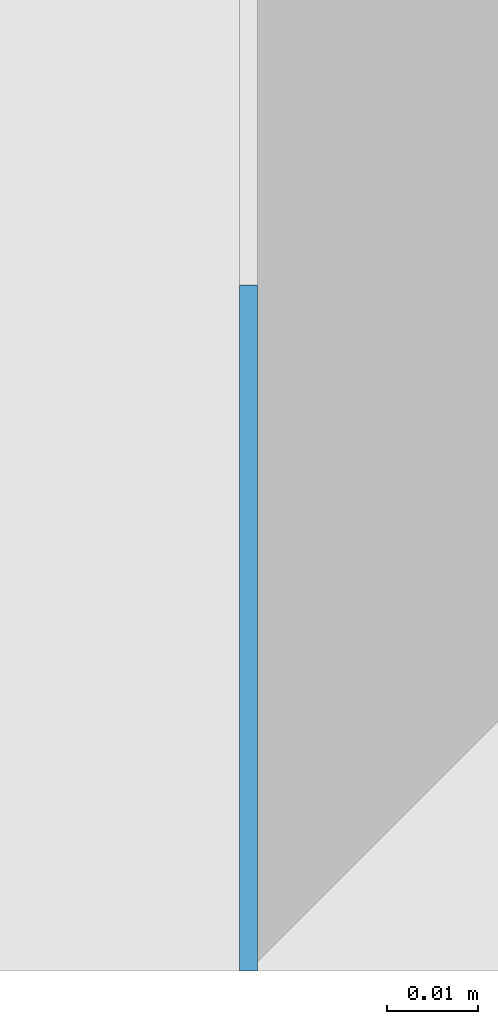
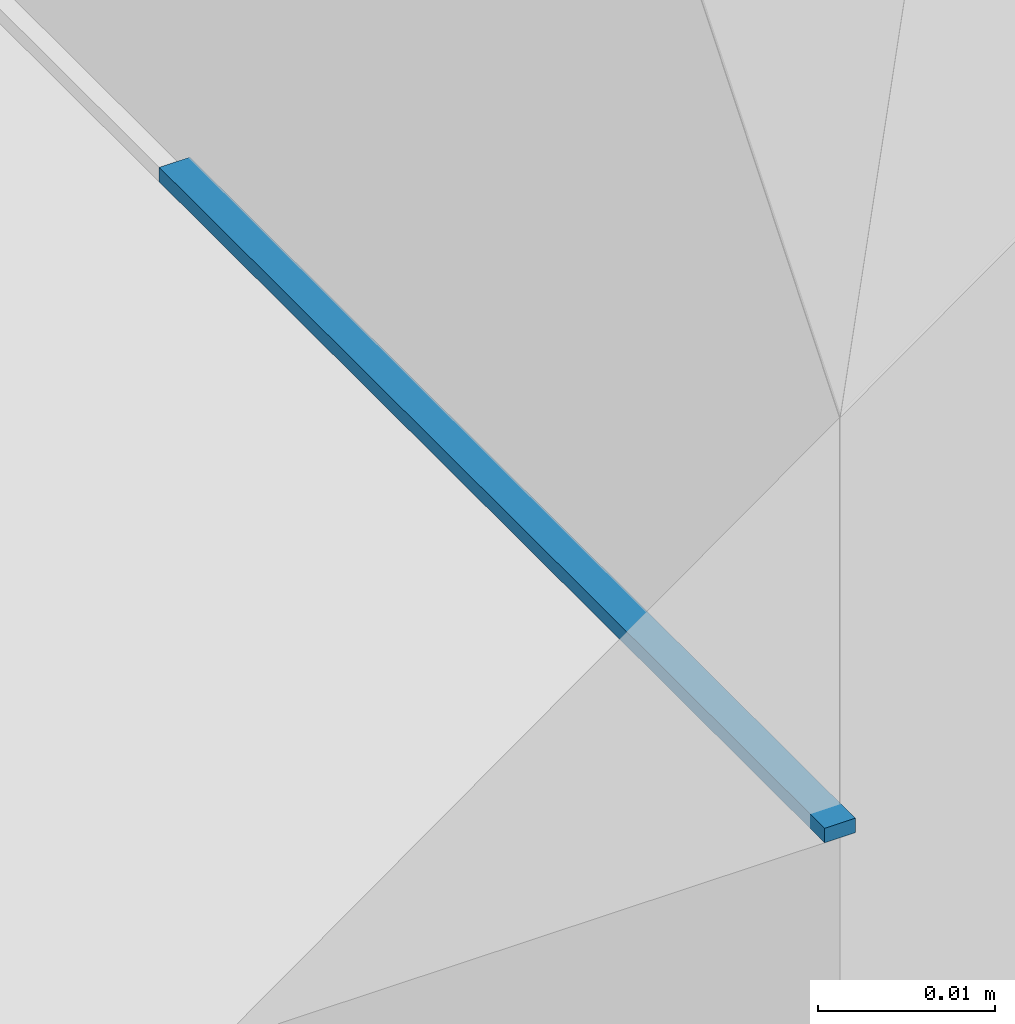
# One storey, part 12 of 17: 1 beam.
"""IFC2X3 building model written with IfcOpenShell, lengths in metres."""

from ifc_helpers import new_model, si_unit, direction, frame, origin_with_axes, place, context, subcontext, project, spatial, polyline, outline, extrude, material, type_object, element, save


model = new_model("IFC2X3")

# Units and contexts
model_context = context("Model", 3, precision=0.0001, world=origin_with_axes(), true_north=direction((0.0, 1.0)))
plan_context = context("Plan", 2, precision=0.0001, world=origin_with_axes(), true_north=direction((0.0, 1.0)))
body_context = subcontext(model_context, "Body", "Model", "MODEL_VIEW")
ifc_project = project(units=[si_unit("MASSUNIT", "GRAM", prefix="KILO"), si_unit("AREAUNIT", "SQUARE_METRE"), si_unit("LENGTHUNIT", "METRE"), si_unit("VOLUMEUNIT", "CUBIC_METRE")], contexts=[plan_context, model_context])

# Site, building, storey
site_placement = place(None, origin_with_axes())
site = spatial("IfcSite", under=ifc_project, at=site_placement, Name="$", CompositionType="ELEMENT")
building_placement = place(site_placement, origin_with_axes())
building = spatial("IfcBuilding", under=site, at=building_placement, Name="Classeur ENS Ensemble", CompositionType="ELEMENT")
storey_placement = place(building_placement, frame((-20.30778888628, -1.812671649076, 0.0), z_axis=(0.0, 0.0, 1.0), x_axis=(1.0, 0.0, 0.0)))
storey = spatial("IfcBuildingStorey", under=building, at=storey_placement, Name="001 RdC", CompositionType="ELEMENT", Elevation=0.0)

# Beam
ifc_material = material(Name="Default material")
beam_type = type_object("IfcBeamType", PredefinedType="BEAM")
beam_placement = place(storey_placement, frame((35.3832953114, -13.13232835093, 2.900000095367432), z_axis=(0.0, 0.0, 1.0), x_axis=(0.0, 1.0, 0.0)))
element("IfcBeam", 1, at=beam_placement, inside=storey, type_object=beam_type, material=ifc_material, Name="poutre fictive 290", context=body_context, shape_type="SweptSolid", held_by="IfcProductRepresentation", body=[
    extrude(outline(polyline([(0.0, 0.0009999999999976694), (0.0, 0.0009999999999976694), (0.0, 0.0009999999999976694), (0.07499999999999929, 0.0009999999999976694), (0.07499999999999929, 0.0009999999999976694), (0.07499999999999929, 0.0009999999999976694), (0.07499999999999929, -0.0009999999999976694), (0.07499999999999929, -0.0009999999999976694), (0.07499999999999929, -0.0009999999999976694), (0.0, -0.0009999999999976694), (0.0, -0.0009999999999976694), (0.0, -0.0009999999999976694), (0.0, 0.0009999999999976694)])), origin_with_axes(), (0.0, 0.0, 1.0), 0.001),
])

save(model, "model.ifc")
